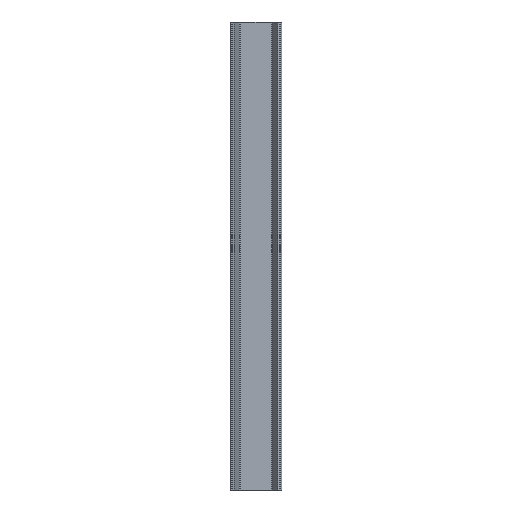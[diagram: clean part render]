
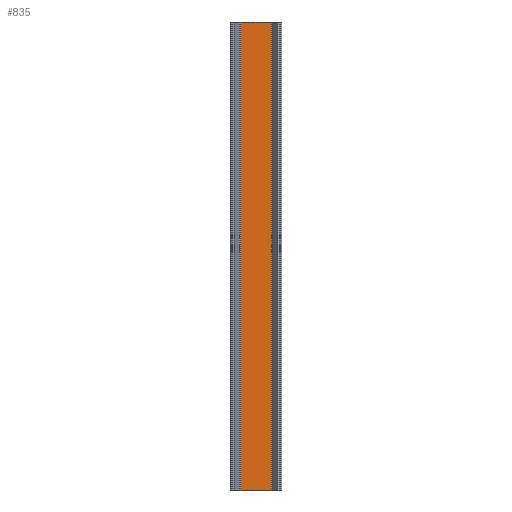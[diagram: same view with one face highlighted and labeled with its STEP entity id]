
A CAD part, front view. The second image highlights one B-rep face of the part: STEP entity #835.
In plain terms, the highlighted planar face has unit normal (0, -1, 0).
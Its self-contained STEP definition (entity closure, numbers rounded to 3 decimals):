
#79=FACE_OUTER_BOUND('',#123,.T.);
#123=EDGE_LOOP('',(#587,#588,#589,#590));
#177=LINE('',#1283,#267);
#178=LINE('',#1287,#268);
#179=LINE('',#1289,#269);
#180=LINE('',#1290,#270);
#267=VECTOR('',#1029,10.);
#268=VECTOR('',#1034,10.);
#269=VECTOR('',#1035,10.);
#270=VECTOR('',#1036,10.);
#357=VERTEX_POINT('',#1280);
#358=VERTEX_POINT('',#1282);
#359=VERTEX_POINT('',#1286);
#360=VERTEX_POINT('',#1288);
#450=EDGE_CURVE('',#358,#357,#177,.T.);
#452=EDGE_CURVE('',#357,#359,#178,.T.);
#453=EDGE_CURVE('',#360,#359,#179,.T.);
#454=EDGE_CURVE('',#358,#360,#180,.T.);
#587=ORIENTED_EDGE('',*,*,#452,.T.);
#588=ORIENTED_EDGE('',*,*,#453,.F.);
#589=ORIENTED_EDGE('',*,*,#454,.F.);
#590=ORIENTED_EDGE('',*,*,#450,.T.);
#804=PLANE('',#909);
#835=ADVANCED_FACE('',(#79),#804,.T.);
#909=AXIS2_PLACEMENT_3D('',#1285,#1032,#1033);
#1029=DIRECTION('',(0.,0.,1.));
#1032=DIRECTION('center_axis',(0.,-1.,0.));
#1033=DIRECTION('ref_axis',(0.,0.,-1.));
#1034=DIRECTION('',(-1.,0.,0.));
#1035=DIRECTION('',(0.,0.,1.));
#1036=DIRECTION('',(-1.,0.,0.));
#1280=CARTESIAN_POINT('',(25.094,22.84,100.));
#1282=CARTESIAN_POINT('',(25.094,22.84,0.));
#1283=CARTESIAN_POINT('',(25.094,22.84,0.));
#1285=CARTESIAN_POINT('Origin',(25.094,22.84,0.));
#1286=CARTESIAN_POINT('',(18.526,22.84,100.));
#1287=CARTESIAN_POINT('',(25.094,22.84,100.));
#1288=CARTESIAN_POINT('',(18.526,22.84,0.));
#1289=CARTESIAN_POINT('',(18.526,22.84,0.));
#1290=CARTESIAN_POINT('',(25.094,22.84,0.));
